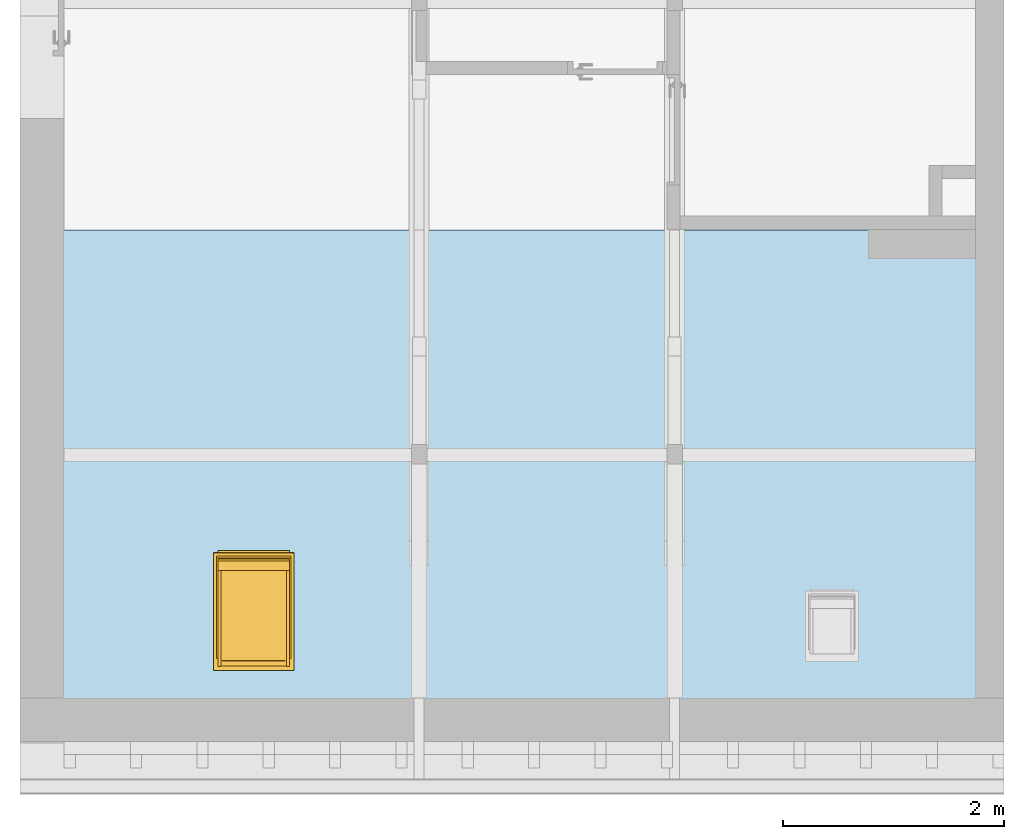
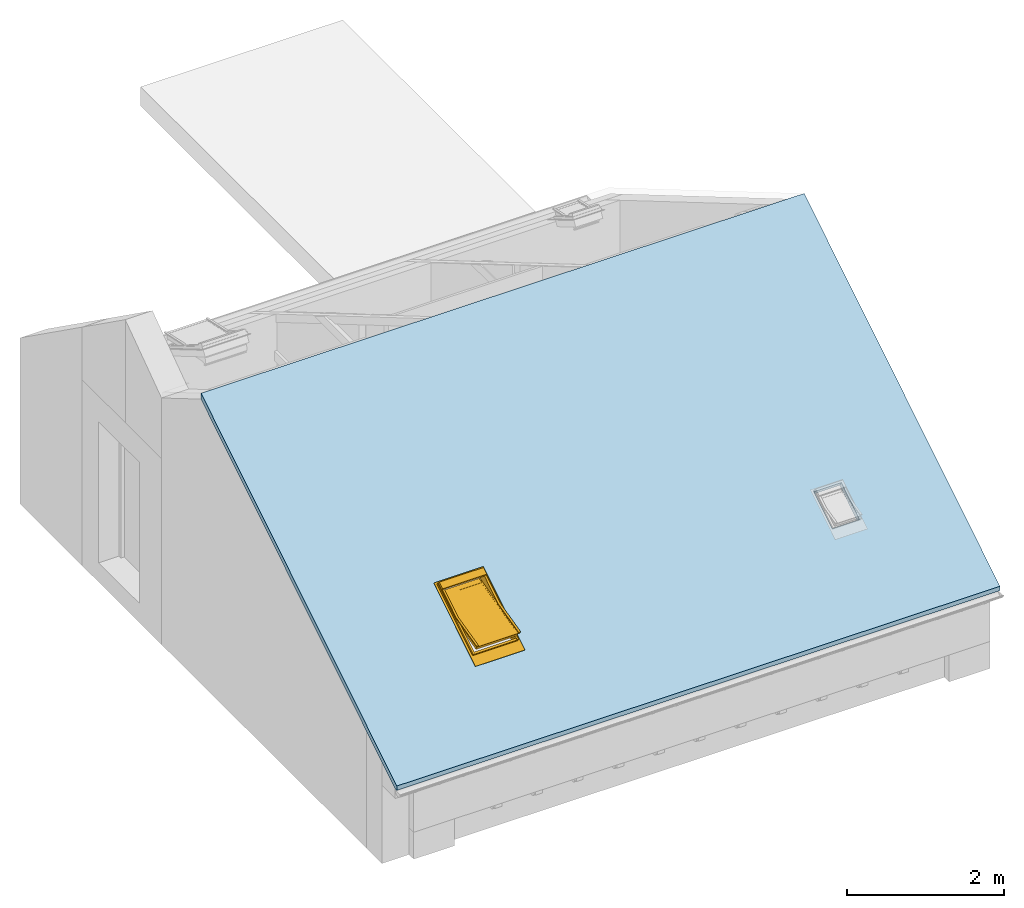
"""IFC4 building model written with IfcOpenShell, lengths in metres."""

from ifc_helpers import new_model, entity, si_unit, converted_unit, derived_unit, frame, frame_2d, origin, origin_with_axes, place, context, subcontext, project, spatial, rectangle, extrude, closed_shell, open_shell, faceted_brep, surface_model, source, transform, mapped, element, fill, aggregate, save


model = new_model("IFC4")

# Units and contexts
model_context = context("Model", 3, precision=1e-05, world=origin())
body_context = subcontext(model_context, "Body", "Model", "MODEL_VIEW")
ifc_project = project(units=[si_unit("LENGTHUNIT", "METRE"), si_unit("AREAUNIT", "SQUARE_METRE"), si_unit("VOLUMEUNIT", "CUBIC_METRE"), si_unit("MASSUNIT", "GRAM", prefix="KILO"), converted_unit("PLANEANGLEUNIT", "DEGREE", entity("IfcPlaneAngleMeasure", 0.0174532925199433), si_unit("PLANEANGLEUNIT", "RADIAN"), dimensions=[0, 0, 0, 0, 0, 0, 0]), derived_unit("THERMALTRANSMITTANCEUNIT", [(si_unit("POWERUNIT", "WATT"), 1), (si_unit("THERMODYNAMICTEMPERATUREUNIT", "KELVIN"), -1), (si_unit("LENGTHUNIT", "METRE"), -2)]), derived_unit("VOLUMETRICFLOWRATEUNIT", [(si_unit("LENGTHUNIT", "METRE"), 3), (converted_unit("TIMEUNIT", "hour", entity("IfcTimeMeasure", 3600.0), si_unit("TIMEUNIT", "SECOND"), dimensions=[0, 0, 1, 0, 0, 0, 0]), -1), (si_unit("LENGTHUNIT", "METRE"), -1)])], contexts=[model_context])

# Building, storeys
building_placement = place(None, origin())
building = spatial("IfcBuilding", under=ifc_project, at=building_placement, Name="Bestandsgebäude A - Sporthalle / Wohnhaus (TB 100-499)   ANPASSEN !!!", CompositionType="ELEMENT")
storey_1_placement = place(building_placement, frame((0.0, 0.0, 7.71)))
storey_1 = spatial("IfcBuildingStorey", under=building, at=storey_1_placement, Name="Geb. A Dachgeschoss (TB 450-499)", CompositionType="ELEMENT", Elevation=7.71)
storey_2_placement = place(storey_1_placement, frame((0.0, 0.0, 7.71)))
storey_2 = spatial("IfcBuildingStorey", under=storey_1, at=storey_2_placement, Name="Architektur (TB 450-459)", CompositionType="PARTIAL")

# Roof, slab, openings, window
roof_placement = place(storey_2_placement, frame((0.0, 0.0, -15.42)))
roof = element("IfcRoof", 1, at=roof_placement, inside=storey_2, PredefinedType="NOTDEFINED")
slab_placement = place(roof_placement, frame((-8.9, -0.380000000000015, 8.68128203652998)))
slab = element("IfcSlab", 2, at=slab_placement, PredefinedType="ROOF", context=body_context, shape_type="Brep", body=[
    faceted_brep([(0.0, 5.00491922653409, 3.06870697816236), (0.0, 0.0420733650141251, 0.0), (8.9, 0.0420733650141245, 0.0), (8.9, 5.0049192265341, 3.06870697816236), (2.43891452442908, 1.20043037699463, 0.71625400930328), (1.78891452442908, 1.20043037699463, 0.71625400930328), (1.78891452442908, 2.0934930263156, 1.26846692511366), (2.43891452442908, 2.0934930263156, 1.26846692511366), (7.54391452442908, 1.28129961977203, 0.766258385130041), (7.14391452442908, 1.28129961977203, 0.766258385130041), (7.14391452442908, 1.74909434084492, 1.05551276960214), (7.54391452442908, 1.74909434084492, 1.05551276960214), (0.0, 5.00388384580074, 3.16212511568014), (8.9, 5.00388384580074, 3.16212511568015), (8.9, 0.0, 0.068042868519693), (0.0, 0.0, 0.068042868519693), (1.78891452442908, 1.1583570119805, 0.784296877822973), (2.43891452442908, 1.1583570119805, 0.784296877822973), (2.43891452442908, 2.05141966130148, 1.33650979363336), (1.78891452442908, 2.05141966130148, 1.33650979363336), (7.14391452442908, 1.2392262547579, 0.834301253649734), (7.54391452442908, 1.2392262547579, 0.834301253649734), (7.54391452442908, 1.7070209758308, 1.12355563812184), (7.14391452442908, 1.7070209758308, 1.12355563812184), (0.0, 0.0, 0.0), (8.9, 0.0, 0.0)], [[[0, 1, 2, 3], [4, 5, 6, 7], [8, 9, 10, 11]], [[12, 13, 14, 15], [16, 17, 18, 19], [20, 21, 22, 23]], [[12, 15, 24, 1, 0]], [[14, 13, 3, 2, 25]], [[13, 12, 0, 3]], [[24, 25, 2, 1]], [[15, 14, 25, 24]], [[16, 5, 4, 17]], [[18, 7, 6, 19]], [[16, 19, 6, 5]], [[18, 17, 4, 7]], [[20, 9, 8, 21]], [[22, 11, 10, 23]], [[20, 23, 10, 9]], [[22, 21, 8, 11]]], orient=[[False, False, False], [False, False, False], [False], [False], [False], [False], [False], [False], [False], [False], [False], [False], [False], [False], [False]]),
])
opening_1_placement = place(slab_placement, frame((1.78891452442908, 1.1583570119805, 0.784296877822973), z_axis=(-5.33434646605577e-17, -0.525917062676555, 0.850535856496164), x_axis=(-1.0, 1.01429423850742e-16, 0.0)))
opening_1 = element("IfcOpeningElement", 3, at=opening_1_placement, cuts=slab, Name="Skylight", ObjectType="Opening", context=body_context, shape_type="SweptSolid", body=[
    extrude(rectangle(XDim=0.65, YDim=1.05, at=frame_2d((-0.325, -0.525), x_axis=(-1.0, 0.0))), origin_with_axes(), (0.0, 0.0, -1.0), 0.08),
])
opening_2_placement = place(slab_placement, frame((7.14391452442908, 1.2392262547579, 0.834301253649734), z_axis=(-5.33434646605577e-17, -0.525917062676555, 0.850535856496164), x_axis=(-1.0, 1.01429423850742e-16, 0.0)))
element("IfcOpeningElement", 4, at=opening_2_placement, cuts=slab, Name="Skylight", ObjectType="Opening", context=body_context, shape_type="SweptSolid", body=[
    extrude(rectangle(XDim=0.4, YDim=0.55, at=frame_2d((-0.2, -0.275), x_axis=(-1.0, 0.0))), origin_with_axes(), (0.0, 0.0, -1.0), 0.08),
])
shared_shape = source(origin_with_axes(), body_context, "Body", "SurfaceModel", [
    surface_model("IfcShellBasedSurfaceModel", [(0.03, 0.15, 0.226476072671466), (0.03, 0.15, 0.266476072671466), (0.049999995, 0.15, 0.266476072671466), (0.049999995, 0.15, 0.226476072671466), (0.03, 1.22, 0.266476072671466), (0.03, 1.22, 0.226476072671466), (0.049999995, 1.22, 0.226476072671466), (0.049999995, 1.22, 0.266476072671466)], [closed_shell([[[0, 1, 2, 3]], [[4, 5, 6, 7]], [[1, 0, 5, 4]], [[2, 1, 4, 7]], [[3, 2, 7, 6]], [[0, 3, 6, 5]]], orient=[[False], [False], [False], [False], [False], [False]])]),
    surface_model("IfcShellBasedSurfaceModel", [(0.680000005, 0.15, 0.226476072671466), (0.680000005, 0.15, 0.266476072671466), (0.7, 0.15, 0.266476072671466), (0.7, 0.15, 0.226476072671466), (0.680000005, 1.22, 0.266476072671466), (0.680000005, 1.22, 0.226476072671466), (0.7, 1.22, 0.226476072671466), (0.7, 1.22, 0.266476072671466)], [closed_shell([[[0, 1, 2, 3]], [[4, 5, 6, 7]], [[1, 0, 5, 4]], [[2, 1, 4, 7]], [[3, 2, 7, 6]], [[0, 3, 6, 5]]], orient=[[False], [False], [False], [False], [False], [False]])]),
    surface_model("IfcShellBasedSurfaceModel", [(0.049999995, 0.15, 0.226476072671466), (0.049999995, 0.15, 0.261476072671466), (0.680000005, 0.15, 0.261476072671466), (0.680000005, 0.15, 0.226476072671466), (0.049999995, 0.169999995, 0.261476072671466), (0.049999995, 0.169999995, 0.226476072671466), (0.680000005, 0.169999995, 0.226476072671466), (0.680000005, 0.169999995, 0.261476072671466)], [closed_shell([[[0, 1, 2, 3]], [[4, 5, 6, 7]], [[1, 0, 5, 4]], [[2, 1, 4, 7]], [[3, 2, 7, 6]], [[0, 3, 6, 5]]], orient=[[False], [False], [False], [False], [False], [False]])]),
    surface_model("IfcShellBasedSurfaceModel", [(0.049999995, 1.200000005, 0.226476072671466), (0.049999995, 1.200000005, 0.266476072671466), (0.680000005, 1.200000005, 0.266476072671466), (0.680000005, 1.200000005, 0.226476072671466), (0.049999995, 1.22, 0.266476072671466), (0.049999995, 1.22, 0.226476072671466), (0.680000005, 1.22, 0.226476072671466), (0.680000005, 1.22, 0.266476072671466)], [closed_shell([[[0, 1, 2, 3]], [[4, 5, 6, 7]], [[1, 0, 5, 4]], [[2, 1, 4, 7]], [[3, 2, 7, 6]], [[0, 3, 6, 5]]], orient=[[False], [False], [False], [False], [False], [False]])]),
    surface_model("IfcShellBasedSurfaceModel", [(0.0, 0.0, 0.226476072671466), (0.0, 0.0, 0.231476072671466), (0.03, 0.0, 0.231476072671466), (0.03, 0.0, 0.226476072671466), (0.0, 1.22, 0.231476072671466), (0.0, 1.22, 0.226476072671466), (0.03, 1.22, 0.226476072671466), (0.03, 1.22, 0.231476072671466)], [closed_shell([[[0, 1, 2, 3]], [[4, 5, 6, 7]], [[1, 0, 5, 4]], [[2, 1, 4, 7]], [[3, 2, 7, 6]], [[0, 3, 6, 5]]], orient=[[False], [False], [False], [False], [False], [False]])]),
    surface_model("IfcShellBasedSurfaceModel", [(0.03, 0.0, 0.226476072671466), (0.03, 0.0, 0.231476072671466), (0.7, 0.0, 0.231476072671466), (0.7, 0.0, 0.226476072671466), (0.03, 0.15, 0.231476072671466), (0.03, 0.15, 0.226476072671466), (0.7, 0.15, 0.226476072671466), (0.7, 0.15, 0.231476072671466)], [closed_shell([[[0, 1, 2, 3]], [[4, 5, 6, 7]], [[1, 0, 5, 4]], [[2, 1, 4, 7]], [[3, 2, 7, 6]], [[0, 3, 6, 5]]], orient=[[False], [False], [False], [False], [False], [False]])]),
    surface_model("IfcShellBasedSurfaceModel", [(0.7, 0.0, 0.226476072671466), (0.7, 0.0, 0.231476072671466), (0.73, 0.0, 0.231476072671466), (0.73, 0.0, 0.226476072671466), (0.7, 1.22, 0.231476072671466), (0.7, 1.22, 0.226476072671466), (0.73, 1.22, 0.226476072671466), (0.73, 1.22, 0.231476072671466)], [closed_shell([[[0, 1, 2, 3]], [[4, 5, 6, 7]], [[1, 0, 5, 4]], [[2, 1, 4, 7]], [[3, 2, 7, 6]], [[0, 3, 6, 5]]], orient=[[False], [False], [False], [False], [False], [False]])]),
    surface_model("IfcShellBasedSurfaceModel", [(0.0, 1.22, 0.226476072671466), (0.0, 1.22, 0.231476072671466), (0.73, 1.22, 0.231476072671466), (0.73, 1.22, 0.226476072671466), (0.0, 1.25, 0.231476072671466), (0.0, 1.25, 0.226476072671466), (0.73, 1.25, 0.226476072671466), (0.73, 1.25, 0.231476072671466)], [closed_shell([[[0, 1, 2, 3]], [[4, 5, 6, 7]], [[1, 0, 5, 4]], [[2, 1, 4, 7]], [[3, 2, 7, 6]], [[0, 3, 6, 5]]], orient=[[False], [False], [False], [False], [False], [False]])]),
    surface_model("IfcShellBasedSurfaceModel", [(0.049999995, 0.17999999, 0.226476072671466), (0.049999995, 0.17999999, 0.266476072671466), (0.05999999, 0.17999999, 0.266476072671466), (0.05999999, 0.17999999, 0.126476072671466), (0.04, 0.17999999, 0.126476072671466), (0.04, 0.17999999, 0.226476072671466), (0.049999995, 1.19000001, 0.266476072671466), (0.049999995, 1.19000001, 0.226476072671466), (0.04, 1.19000001, 0.226476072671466), (0.04, 1.19000001, 0.126476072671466), (0.05999999, 1.19000001, 0.126476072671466), (0.05999999, 1.19000001, 0.266476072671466)], [closed_shell([[[0, 1, 2, 3, 4, 5]], [[6, 7, 8, 9, 10, 11]], [[1, 0, 7, 6]], [[2, 1, 6, 11]], [[3, 2, 11, 10]], [[4, 3, 10, 9]], [[5, 4, 9, 8]], [[0, 5, 8, 7]]], orient=[[False], [False], [False], [False], [False], [False], [False], [False]])]),
    surface_model("IfcShellBasedSurfaceModel", [(0.67000001, 0.17999999, 0.126476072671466), (0.67000001, 0.17999999, 0.266476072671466), (0.680000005, 0.17999999, 0.266476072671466), (0.680000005, 0.17999999, 0.226476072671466), (0.69, 0.17999999, 0.226476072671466), (0.69, 0.17999999, 0.126476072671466), (0.67000001, 1.19000001, 0.266476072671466), (0.67000001, 1.19000001, 0.126476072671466), (0.69, 1.19000001, 0.126476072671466), (0.69, 1.19000001, 0.226476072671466), (0.680000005, 1.19000001, 0.226476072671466), (0.680000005, 1.19000001, 0.266476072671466)], [closed_shell([[[0, 1, 2, 3, 4, 5]], [[6, 7, 8, 9, 10, 11]], [[1, 0, 7, 6]], [[2, 1, 6, 11]], [[3, 2, 11, 10]], [[4, 3, 10, 9]], [[5, 4, 9, 8]], [[0, 5, 8, 7]]], orient=[[False], [False], [False], [False], [False], [False], [False], [False]])]),
    surface_model("IfcShellBasedSurfaceModel", [(0.04, 0.17999999, 0.261476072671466), (0.04, 0.169999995, 0.261476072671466), (0.04, 0.169999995, 0.226476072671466), (0.04, 0.16, 0.226476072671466), (0.04, 0.16, 0.126476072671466), (0.04, 0.17999999, 0.126476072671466), (0.69, 0.169999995, 0.261476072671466), (0.69, 0.17999999, 0.261476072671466), (0.69, 0.17999999, 0.126476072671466), (0.69, 0.16, 0.126476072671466), (0.69, 0.16, 0.226476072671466), (0.69, 0.169999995, 0.226476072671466)], [closed_shell([[[0, 1, 2, 3, 4, 5]], [[6, 7, 8, 9, 10, 11]], [[1, 0, 7, 6]], [[2, 1, 6, 11]], [[3, 2, 11, 10]], [[4, 3, 10, 9]], [[5, 4, 9, 8]], [[0, 5, 8, 7]]], orient=[[False], [False], [False], [False], [False], [False], [False], [False]])]),
    surface_model("IfcShellBasedSurfaceModel", [(0.04, 1.200000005, 0.266476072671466), (0.04, 1.19000001, 0.266476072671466), (0.04, 1.19000001, 0.126476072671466), (0.04, 1.21, 0.126476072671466), (0.04, 1.21, 0.226476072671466), (0.04, 1.200000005, 0.226476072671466), (0.69, 1.19000001, 0.266476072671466), (0.69, 1.200000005, 0.266476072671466), (0.69, 1.200000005, 0.226476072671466), (0.69, 1.21, 0.226476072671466), (0.69, 1.21, 0.126476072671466), (0.69, 1.19000001, 0.126476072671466)], [closed_shell([[[0, 1, 2, 3, 4, 5]], [[6, 7, 8, 9, 10, 11]], [[1, 0, 7, 6]], [[2, 1, 6, 11]], [[3, 2, 11, 10]], [[4, 3, 10, 9]], [[5, 4, 9, 8]], [[0, 5, 8, 7]]], orient=[[False], [False], [False], [False], [False], [False], [False], [False]])]),
    surface_model("IfcShellBasedSurfaceModel", [(0.03999999, 0.685, 0.266476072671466), (0.03999999, 0.685, 0.281476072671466), (0.06999999, 0.685, 0.281476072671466), (0.06999999, 0.685, 0.266476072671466), (0.03999999, 1.19000001, 0.281476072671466), (0.03999999, 1.19000001, 0.266476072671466), (0.06999999, 1.19000001, 0.266476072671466), (0.06999999, 1.19000001, 0.281476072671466)], [closed_shell([[[0, 1, 2, 3]], [[4, 5, 6, 7]], [[1, 0, 5, 4]], [[2, 1, 4, 7]], [[3, 2, 7, 6]], [[0, 3, 6, 5]]], orient=[[False], [False], [False], [False], [False], [False]])]),
    surface_model("IfcShellBasedSurfaceModel", [(0.66000001, 0.685, 0.266476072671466), (0.66000001, 0.685, 0.281476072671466), (0.69000001, 0.685, 0.281476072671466), (0.69000001, 0.685, 0.266476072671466), (0.66000001, 1.19000001, 0.281476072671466), (0.66000001, 1.19000001, 0.266476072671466), (0.69000001, 1.19000001, 0.266476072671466), (0.69000001, 1.19000001, 0.281476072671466)], [closed_shell([[[0, 1, 2, 3]], [[4, 5, 6, 7]], [[1, 0, 5, 4]], [[2, 1, 4, 7]], [[3, 2, 7, 6]], [[0, 3, 6, 5]]], orient=[[False], [False], [False], [False], [False], [False]])]),
    surface_model("IfcShellBasedSurfaceModel", [(0.04, 1.11000001, 0.266476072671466), (0.04, 1.11000001, 0.306476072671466), (0.69, 1.11000001, 0.306476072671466), (0.69, 1.11000001, 0.266476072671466), (0.04, 1.21, 0.306476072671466), (0.04, 1.21, 0.266476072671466), (0.69, 1.21, 0.266476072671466), (0.69, 1.21, 0.306476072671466)], [closed_shell([[[0, 1, 2, 3]], [[4, 5, 6, 7]], [[1, 0, 5, 4]], [[2, 1, 4, 7]], [[3, 2, 7, 6]], [[0, 3, 6, 5]]], orient=[[False], [False], [False], [False], [False], [False]])]),
    surface_model("IfcShellBasedSurfaceModel", [(0.07999998, 0.218329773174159, 0.41470583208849), (0.65000002, 0.218329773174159, 0.41470583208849), (0.65000002, 1.08379123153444, 0.133500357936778), (0.07999998, 1.08379123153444, 0.133500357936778)], [open_shell([[[0, 1, 2, 3]]], orient=[[False]])]),
    surface_model("IfcShellBasedSurfaceModel", [(0.069999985, 0.208046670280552, 0.415418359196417), (0.069999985, 0.209591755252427, 0.420173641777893), (0.07999998, 0.209591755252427, 0.420173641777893), (0.07999998, 0.208046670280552, 0.415418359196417), (0.069999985, 1.09407433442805, 0.132787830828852), (0.069999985, 1.09252924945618, 0.128032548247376), (0.07999998, 1.09252924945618, 0.128032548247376), (0.07999998, 1.09407433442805, 0.132787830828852)], [closed_shell([[[0, 1, 2, 3]], [[4, 5, 6, 7]], [[1, 0, 5, 4]], [[2, 1, 4, 7]], [[3, 2, 7, 6]], [[0, 3, 6, 5]]], orient=[[False], [False], [False], [False], [False], [False]])]),
    surface_model("IfcShellBasedSurfaceModel", [(0.65000002, 0.208046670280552, 0.415418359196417), (0.65000002, 0.209591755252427, 0.420173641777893), (0.660000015, 0.209591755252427, 0.420173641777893), (0.660000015, 0.208046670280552, 0.415418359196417), (0.65000002, 1.09407433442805, 0.132787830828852), (0.65000002, 1.09252924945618, 0.128032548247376), (0.660000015, 1.09252924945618, 0.128032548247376), (0.660000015, 1.09407433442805, 0.132787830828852)], [closed_shell([[[0, 1, 2, 3]], [[4, 5, 6, 7]], [[1, 0, 5, 4]], [[2, 1, 4, 7]], [[3, 2, 7, 6]], [[0, 3, 6, 5]]], orient=[[False], [False], [False], [False], [False], [False]])]),
    surface_model("IfcShellBasedSurfaceModel", [(0.07999998, 0.208046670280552, 0.415418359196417), (0.07999998, 0.209591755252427, 0.420173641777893), (0.65000002, 0.209591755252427, 0.420173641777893), (0.65000002, 0.208046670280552, 0.415418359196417), (0.07999998, 0.219102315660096, 0.417083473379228), (0.07999998, 0.217557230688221, 0.412328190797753), (0.65000002, 0.217557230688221, 0.412328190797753), (0.65000002, 0.219102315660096, 0.417083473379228)], [closed_shell([[[0, 1, 2, 3]], [[4, 5, 6, 7]], [[1, 0, 5, 4]], [[2, 1, 4, 7]], [[3, 2, 7, 6]], [[0, 3, 6, 5]]], orient=[[False], [False], [False], [False], [False], [False]])]),
    surface_model("IfcShellBasedSurfaceModel", [(0.07999998, 1.08301868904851, 0.131122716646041), (0.07999998, 1.08456377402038, 0.135877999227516), (0.65000002, 1.08456377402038, 0.135877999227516), (0.65000002, 1.08301868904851, 0.131122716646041), (0.07999998, 1.09407433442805, 0.132787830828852), (0.07999998, 1.09252924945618, 0.128032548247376), (0.65000002, 1.09252924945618, 0.128032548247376), (0.65000002, 1.09407433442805, 0.132787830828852)], [closed_shell([[[0, 1, 2, 3]], [[4, 5, 6, 7]], [[1, 0, 5, 4]], [[2, 1, 4, 7]], [[3, 2, 7, 6]], [[0, 3, 6, 5]]], orient=[[False], [False], [False], [False], [False], [False]])]),
    surface_model("IfcShellBasedSurfaceModel", [(0.05999999, 0.175359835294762, 0.347179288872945), (0.05999999, 0.200081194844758, 0.423263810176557), (0.069999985, 0.200081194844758, 0.423263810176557), (0.069999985, 0.198536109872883, 0.418508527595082), (0.07999998, 0.198536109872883, 0.418508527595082), (0.07999998, 0.175359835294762, 0.347179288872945), (0.05999999, 1.16064829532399, 0.111156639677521), (0.05999999, 1.135926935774, 0.0350721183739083), (0.07999998, 1.135926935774, 0.0350721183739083), (0.07999998, 1.15910321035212, 0.106401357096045), (0.069999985, 1.15910321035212, 0.106401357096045), (0.069999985, 1.16064829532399, 0.111156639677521)], [closed_shell([[[0, 1, 2, 3, 4, 5]], [[6, 7, 8, 9, 10, 11]], [[1, 0, 7, 6]], [[2, 1, 6, 11]], [[3, 2, 11, 10]], [[4, 3, 10, 9]], [[5, 4, 9, 8]], [[0, 5, 8, 7]]], orient=[[False], [False], [False], [False], [False], [False], [False], [False]])]),
    surface_model("IfcShellBasedSurfaceModel", [(0.660000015, 0.198536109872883, 0.418508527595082), (0.660000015, 0.200081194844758, 0.423263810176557), (0.67000001, 0.200081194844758, 0.423263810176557), (0.67000001, 0.175359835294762, 0.347179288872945), (0.65000002, 0.175359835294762, 0.347179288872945), (0.65000002, 0.198536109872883, 0.418508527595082), (0.660000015, 1.16064829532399, 0.111156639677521), (0.660000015, 1.15910321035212, 0.106401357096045), (0.65000002, 1.15910321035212, 0.106401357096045), (0.65000002, 1.135926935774, 0.0350721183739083), (0.67000001, 1.135926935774, 0.0350721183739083), (0.67000001, 1.16064829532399, 0.111156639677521)], [closed_shell([[[0, 1, 2, 3, 4, 5]], [[6, 7, 8, 9, 10, 11]], [[1, 0, 7, 6]], [[2, 1, 6, 11]], [[3, 2, 11, 10]], [[4, 3, 10, 9]], [[5, 4, 9, 8]], [[0, 5, 8, 7]]], orient=[[False], [False], [False], [False], [False], [False], [False], [False]])]),
    surface_model("IfcShellBasedSurfaceModel", [(0.07999998, 0.175359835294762, 0.347179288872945), (0.07999998, 0.198536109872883, 0.418508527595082), (0.65000002, 0.198536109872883, 0.418508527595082), (0.65000002, 0.175359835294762, 0.347179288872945), (0.07999998, 0.217557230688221, 0.412328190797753), (0.07999998, 0.1943809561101, 0.340998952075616), (0.65000002, 0.1943809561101, 0.340998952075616), (0.65000002, 0.217557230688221, 0.412328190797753)], [closed_shell([[[0, 1, 2, 3]], [[4, 5, 6, 7]], [[1, 0, 5, 4]], [[2, 1, 4, 7]], [[3, 2, 7, 6]], [[0, 3, 6, 5]]], orient=[[False], [False], [False], [False], [False], [False]])]),
    surface_model("IfcShellBasedSurfaceModel", [(0.07999998, 1.05984241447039, 0.059793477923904), (0.07999998, 1.08301868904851, 0.131122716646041), (0.65000002, 1.08301868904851, 0.131122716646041), (0.65000002, 1.05984241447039, 0.059793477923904), (0.07999998, 1.15910321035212, 0.106401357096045), (0.07999998, 1.135926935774, 0.0350721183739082), (0.65000002, 1.135926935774, 0.0350721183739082), (0.65000002, 1.15910321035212, 0.106401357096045)], [closed_shell([[[0, 1, 2, 3]], [[4, 5, 6, 7]], [[1, 0, 5, 4]], [[2, 1, 4, 7]], [[3, 2, 7, 6]], [[0, 3, 6, 5]]], orient=[[False], [False], [False], [False], [False], [False]])]),
    surface_model("IfcShellBasedSurfaceModel", [(0.05999999, 1.06471772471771, 0.0424374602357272), (0.05999999, 1.06935297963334, 0.0567033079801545), (0.67000001, 1.06935297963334, 0.0567033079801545), (0.67000001, 1.06471772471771, 0.0424374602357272), (0.05999999, 1.12641637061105, 0.0381622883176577), (0.05999999, 1.12178111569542, 0.0238964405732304), (0.67000001, 1.12178111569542, 0.0238964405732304), (0.67000001, 1.12641637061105, 0.0381622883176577)], [closed_shell([[[0, 1, 2, 3]], [[4, 5, 6, 7]], [[1, 0, 5, 4]], [[2, 1, 4, 7]], [[3, 2, 7, 6]], [[0, 3, 6, 5]]], orient=[[False], [False], [False], [False], [False], [False]])]),
    surface_model("IfcShellBasedSurfaceModel", [(0.07499999, 1.07993615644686, 0.0164634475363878), (0.07499999, 1.08611649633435, 0.0354845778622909), (0.08999999, 1.08611649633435, 0.0354845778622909), (0.08999999, 1.07993615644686, 0.0164634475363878), (0.07499999, 1.10038234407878, 0.0308493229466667), (0.07499999, 1.09420200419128, 0.0118281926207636), (0.08999999, 1.09420200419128, 0.0118281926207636), (0.08999999, 1.10038234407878, 0.0308493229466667)], [closed_shell([[[0, 1, 2, 3]], [[4, 5, 6, 7]], [[1, 0, 5, 4]], [[2, 1, 4, 7]], [[3, 2, 7, 6]], [[0, 3, 6, 5]]], orient=[[False], [False], [False], [False], [False], [False]])]),
    surface_model("IfcShellBasedSurfaceModel", [(0.26333333, 1.07993615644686, 0.0164634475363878), (0.26333333, 1.08611649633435, 0.0354845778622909), (0.27833333, 1.08611649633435, 0.0354845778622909), (0.27833333, 1.07993615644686, 0.0164634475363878), (0.26333333, 1.10038234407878, 0.0308493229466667), (0.26333333, 1.09420200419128, 0.0118281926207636), (0.27833333, 1.09420200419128, 0.0118281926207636), (0.27833333, 1.10038234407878, 0.0308493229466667)], [closed_shell([[[0, 1, 2, 3]], [[4, 5, 6, 7]], [[1, 0, 5, 4]], [[2, 1, 4, 7]], [[3, 2, 7, 6]], [[0, 3, 6, 5]]], orient=[[False], [False], [False], [False], [False], [False]])]),
    surface_model("IfcShellBasedSurfaceModel", [(0.45166667, 1.07993615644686, 0.0164634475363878), (0.45166667, 1.08611649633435, 0.0354845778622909), (0.46666667, 1.08611649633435, 0.0354845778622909), (0.46666667, 1.07993615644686, 0.0164634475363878), (0.45166667, 1.10038234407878, 0.0308493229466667), (0.45166667, 1.09420200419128, 0.0118281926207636), (0.46666667, 1.09420200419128, 0.0118281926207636), (0.46666667, 1.10038234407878, 0.0308493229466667)], [closed_shell([[[0, 1, 2, 3]], [[4, 5, 6, 7]], [[1, 0, 5, 4]], [[2, 1, 4, 7]], [[3, 2, 7, 6]], [[0, 3, 6, 5]]], orient=[[False], [False], [False], [False], [False], [False]])]),
    surface_model("IfcShellBasedSurfaceModel", [(0.64000001, 1.07993615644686, 0.0164634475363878), (0.64000001, 1.08611649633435, 0.0354845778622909), (0.65500001, 1.08611649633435, 0.0354845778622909), (0.65500001, 1.07993615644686, 0.0164634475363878), (0.64000001, 1.10038234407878, 0.0308493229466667), (0.64000001, 1.09420200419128, 0.0118281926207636), (0.65500001, 1.09420200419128, 0.0118281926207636), (0.65500001, 1.10038234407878, 0.0308493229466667)], [closed_shell([[[0, 1, 2, 3]], [[4, 5, 6, 7]], [[1, 0, 5, 4]], [[2, 1, 4, 7]], [[3, 2, 7, 6]], [[0, 3, 6, 5]]], orient=[[False], [False], [False], [False], [False], [False]])]),
    surface_model("IfcShellBasedSurfaceModel", [(0.05999999, 1.06971306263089, 0.0092705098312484), (0.05999999, 1.07280323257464, 0.0187810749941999), (0.67000001, 1.07280323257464, 0.0187810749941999), (0.67000001, 1.06971306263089, 0.0092705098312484), (0.05999999, 1.1013349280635, 0.00951056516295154), (0.05999999, 1.09824475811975, 0.0), (0.67000001, 1.09824475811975, 0.0), (0.67000001, 1.1013349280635, 0.00951056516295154)], [closed_shell([[[0, 1, 2, 3]], [[4, 5, 6, 7]], [[1, 0, 5, 4]], [[2, 1, 4, 7]], [[3, 2, 7, 6]], [[0, 3, 6, 5]]], orient=[[False], [False], [False], [False], [False], [False]])]),
    surface_model("IfcShellBasedSurfaceModel", [(0.03999999, 0.171549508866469, 0.432534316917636), (0.03999999, 0.176184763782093, 0.446800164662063), (0.06999999, 0.176184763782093, 0.446800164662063), (0.06999999, 0.171549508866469, 0.432534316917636), (0.03999999, 0.685, 0.281476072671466), (0.03999999, 0.680364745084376, 0.267210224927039), (0.06999999, 0.680364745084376, 0.267210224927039), (0.06999999, 0.685, 0.281476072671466)], [closed_shell([[[0, 1, 2, 3]], [[4, 5, 6, 7]], [[1, 0, 5, 4]], [[2, 1, 4, 7]], [[3, 2, 7, 6]], [[0, 3, 6, 5]]], orient=[[False], [False], [False], [False], [False], [False]])]),
    surface_model("IfcShellBasedSurfaceModel", [(0.66000001, 0.171549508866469, 0.432534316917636), (0.66000001, 0.176184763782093, 0.446800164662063), (0.69000001, 0.176184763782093, 0.446800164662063), (0.69000001, 0.171549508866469, 0.432534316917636), (0.66000001, 0.685, 0.281476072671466), (0.66000001, 0.680364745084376, 0.267210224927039), (0.69000001, 0.680364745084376, 0.267210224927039), (0.69000001, 0.685, 0.281476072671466)], [closed_shell([[[0, 1, 2, 3]], [[4, 5, 6, 7]], [[1, 0, 5, 4]], [[2, 1, 4, 7]], [[3, 2, 7, 6]], [[0, 3, 6, 5]]], orient=[[False], [False], [False], [False], [False], [False]])]),
    surface_model("IfcShellBasedSurfaceModel", [(0.049999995, 0.170004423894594, 0.42777903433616), (0.049999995, 0.171549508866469, 0.432534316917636), (0.680000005, 0.171549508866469, 0.432534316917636), (0.680000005, 0.170004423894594, 0.42777903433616), (0.049999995, 0.209591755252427, 0.420173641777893), (0.049999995, 0.208046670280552, 0.415418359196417), (0.680000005, 0.208046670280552, 0.415418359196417), (0.680000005, 0.209591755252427, 0.420173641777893)], [closed_shell([[[0, 1, 2, 3]], [[4, 5, 6, 7]], [[1, 0, 5, 4]], [[2, 1, 4, 7]], [[3, 2, 7, 6]], [[0, 3, 6, 5]]], orient=[[False], [False], [False], [False], [False], [False]])]),
])
window_placement = place(opening_1_placement, frame((0.04, 0.159999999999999, -0.226476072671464), z_axis=(-5.33434646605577e-17, -1.11022302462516e-16, 1.0), x_axis=(-1.0, -8.62693618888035e-17, -5.33434646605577e-17)))
window = element("IfcWindow", 5, at=window_placement, inside=storey_2, Name="1c white", OverallHeight=1.05, OverallWidth=0.65, PartitioningType="USERDEFINED", PredefinedType="SKYLIGHT", context=body_context, shape_type="MappedRepresentation", body=[
    mapped(shared_shape, transform((0.0, 0.0, 0.0), x_axis=(1.0, 0.0, 0.0), y_axis=(0.0, 1.0, 0.0), z_axis=(0.0, 0.0, 1.0), scale=1.0)),
])
fill(opening_1, window)
aggregate(roof, [slab])

save(model, "model.ifc")
